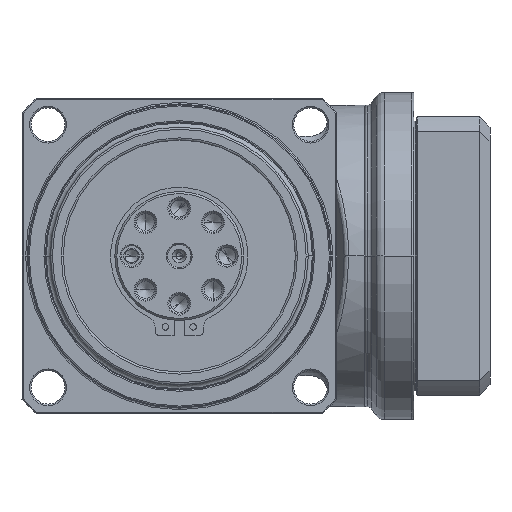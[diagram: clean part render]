
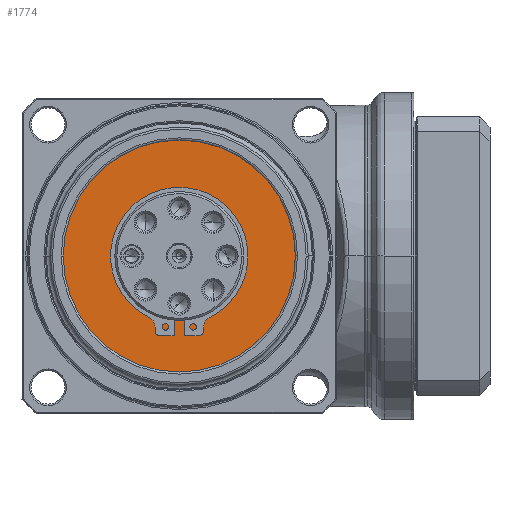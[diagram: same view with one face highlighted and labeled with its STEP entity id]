
A CAD part, left-side view. The second image highlights one B-rep face of the part: STEP entity #1774.
In plain terms, the highlighted planar face has unit normal (-1, 0, 0).
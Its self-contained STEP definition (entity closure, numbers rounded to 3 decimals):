
#797=CARTESIAN_POINT('',(-42.8,0.,0.));
#798=DIRECTION('',(1.,0.,0.));
#799=DIRECTION('',(0.,1.,0.));
#800=AXIS2_PLACEMENT_3D('',#797,#798,#799);
#806=CARTESIAN_POINT('',(-42.8,0.,0.));
#807=DIRECTION('',(-1.,0.,0.));
#808=DIRECTION('',(0.,1.,0.));
#809=AXIS2_PLACEMENT_3D('',#806,#807,#808);
#825=CARTESIAN_POINT('',(-42.8,0.,0.));
#826=DIRECTION('',(-1.,0.,0.));
#827=DIRECTION('',(0.,1.,0.));
#828=AXIS2_PLACEMENT_3D('',#825,#826,#827);
#830=CARTESIAN_POINT('',(-42.8,0.,0.));
#831=DIRECTION('',(1.,0.,0.));
#832=DIRECTION('',(0.,1.,0.));
#833=AXIS2_PLACEMENT_3D('',#830,#831,#832);
#1478=CARTESIAN_POINT('',(-42.8,45.,0.));
#1480=VERTEX_POINT('',#1478);
#1482=CARTESIAN_POINT('',(-42.8,-45.,0.));
#1484=VERTEX_POINT('',#1482);
#1485=CARTESIAN_POINT('',(-42.8,25.,0.));
#1486=CARTESIAN_POINT('',(-42.8,-25.,0.));
#1487=VERTEX_POINT('',#1485);
#1488=VERTEX_POINT('',#1486);
#1759=CARTESIAN_POINT('',(-42.8,0.,0.));
#1760=DIRECTION('',(1.,0.,0.));
#1761=DIRECTION('',(0.,-1.,0.));
#1762=AXIS2_PLACEMENT_3D('',#1759,#1760,#1761);
#1763=PLANE('',#1762);
#1765=ORIENTED_EDGE('',*,*,#1764,.F.);
#1767=ORIENTED_EDGE('',*,*,#1766,.T.);
#1768=EDGE_LOOP('',(#1765,#1767));
#1769=FACE_OUTER_BOUND('',#1768,.F.);
#1770=ORIENTED_EDGE('',*,*,#1726,.F.);
#1771=ORIENTED_EDGE('',*,*,#1741,.T.);
#1772=EDGE_LOOP('',(#1770,#1771));
#1773=FACE_BOUND('',#1772,.F.);
#1774=ADVANCED_FACE('',(#1769,#1773),#1763,.F.);
#801=CIRCLE('',#800,25.);
#810=CIRCLE('',#809,25.);
#829=CIRCLE('',#828,45.);
#834=CIRCLE('',#833,45.);
#1726=EDGE_CURVE('',#1487,#1488,#801,.T.);
#1741=EDGE_CURVE('',#1487,#1488,#810,.T.);
#1764=EDGE_CURVE('',#1480,#1484,#829,.T.);
#1766=EDGE_CURVE('',#1480,#1484,#834,.T.);
